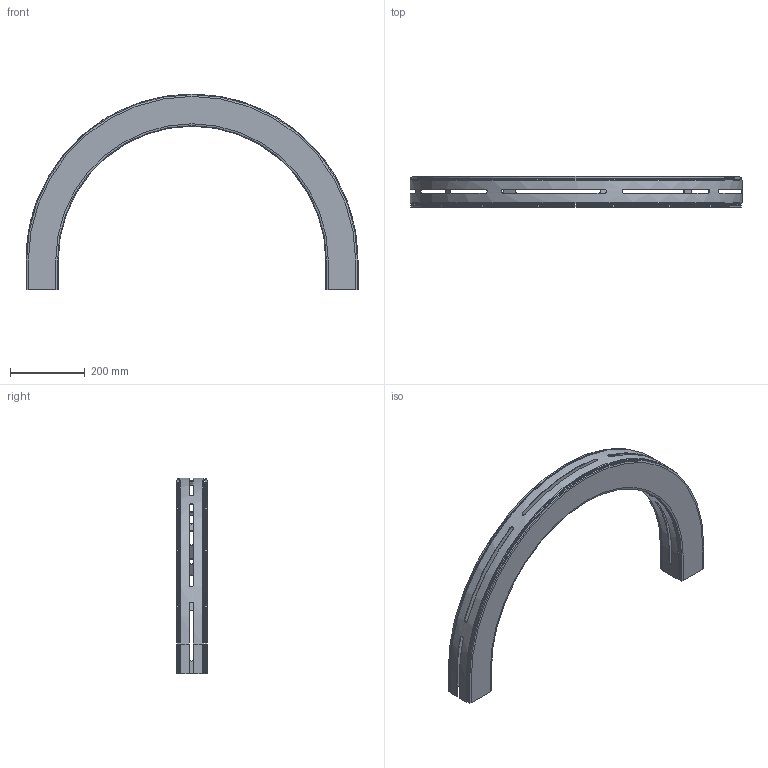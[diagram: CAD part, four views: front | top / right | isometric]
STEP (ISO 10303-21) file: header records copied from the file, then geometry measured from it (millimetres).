
FILE_DESCRIPTION((''),'2;1');
FILE_NAME('C:\Vault Klient\Projekt\Koncept konstruktion\Serie 530 Balk\530-5270.stp','2010-12-01T08:14:38',('Mathias'),(''),'Autodesk Inventor 2011','Autodesk Inventor 2011','');
FILE_SCHEMA(('AUTOMOTIVE_DESIGN { 1 0 10303 214 1 1 1 1 }'));
Length unit declared in the file: millimetre
Products named in the file (1): 530-5270
Bounding box: 886 x 82 x 523 mm (x, y, z)
Volume: 2049601.2 mm3; surface area: 977994.9 mm2
Topology: 2 solids, 2 shells, 187 faces, 530 edges, 348 vertices
Faces by surface type: plane 119, cylinder 30, bspline 30, torus 4, cone 4
Entity records: 7038 total; most frequent: CARTESIAN_POINT 2172, ORIENTED_EDGE 1060, DIRECTION 894, EDGE_CURVE 530, VECTOR 362, LINE 362, VERTEX_POINT 348, AXIS2_PLACEMENT_3D 266
